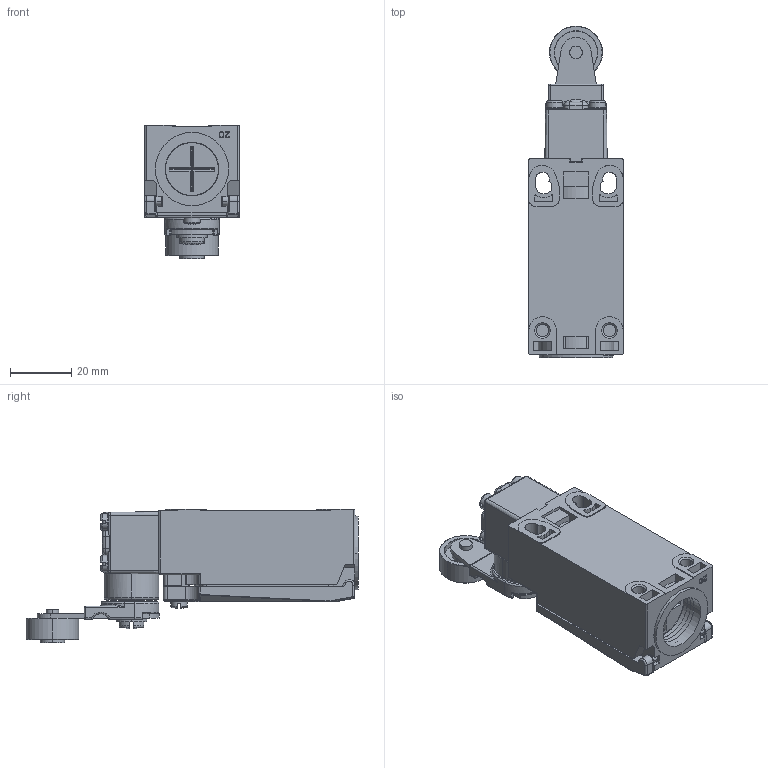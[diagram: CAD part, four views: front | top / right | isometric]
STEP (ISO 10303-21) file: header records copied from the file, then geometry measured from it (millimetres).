
FILE_DESCRIPTION(/* description */ (''),/* implementation_level */ '2;1');
FILE_NAME(/* name */ 'ALS3-P...C2.stp',/* time_stamp */ '2022-04-21T15:17:21+08:00',/* author */ (''),/* organization */ (''),/* preprocessor_version */ 'ST-DEVELOPER v16.7',/* originating_system */ 'SIEMENS PLM Software NX 12.0',/* authorisation */ '');
FILE_SCHEMA (('AUTOMOTIVE_DESIGN { 1 0 10303 214 3 1 1 1 }'));
Products named in the file (14): TZ-8轮子铆钉; TZ-8塑料轮302; 4122摆杆; M3X22螺钉304; M5X13螺钉305; 4122摆杆套; 4120头部基座310; M3X9311; 20210810COVER_BODY312; 基座316; 尾塞; 4122轮子组件; D4N-4122头部组件; ALS3-P...C2_stp
Assembly tree (16 placements, depth 4):
  ALS3-P...C2_stp
    尾塞
    基座316
    20210810COVER_BODY312
    M3X9311
    D4N-4122头部组件
      4120头部基座310
      4122摆杆套
      M5X13螺钉305
      4122轮子组件
        4122摆杆
        TZ-8塑料轮302
        TZ-8轮子铆钉
      M3X22螺钉304  x4
Bounding box: 31 x 108.75 x 43.65 mm (x, y, z)
Volume: 31101.8 mm3; surface area: 33417.6 mm2
Topology: 14 solids, 14 shells, 1730 faces, 4842 edges, 3174 vertices
Faces by surface type: plane 901, cylinder 532, cone 123, torus 80, bspline 56, sphere 38
Entity records: 58963 total; most frequent: CARTESIAN_POINT 16340, ORIENTED_EDGE 9118, DIRECTION 8679, EDGE_CURVE 4559, AXIS2_PLACEMENT_3D 3051, VERTEX_POINT 3012, LINE 2577, VECTOR 2577
